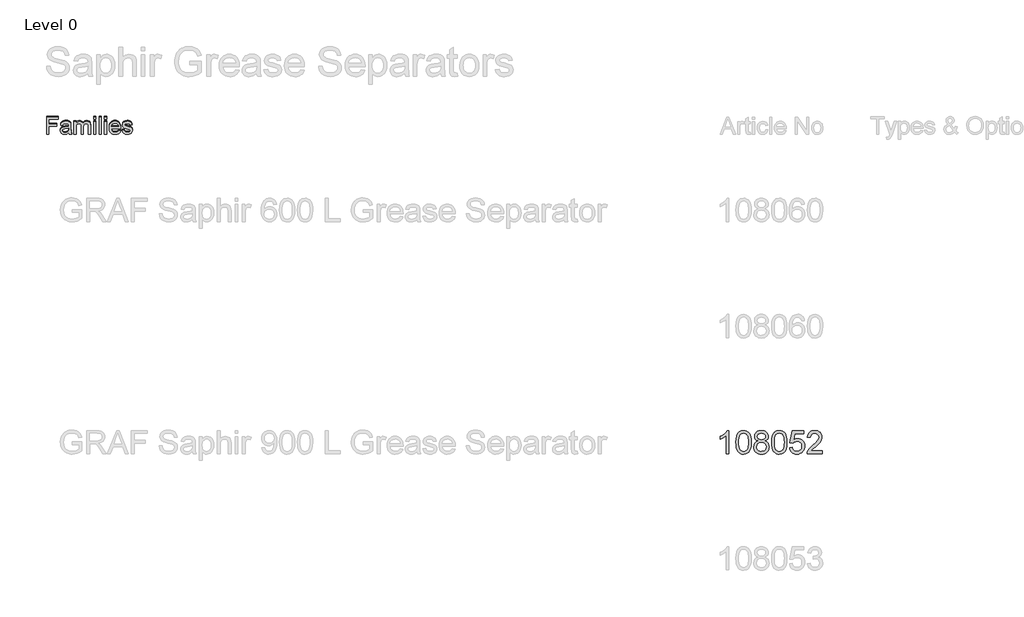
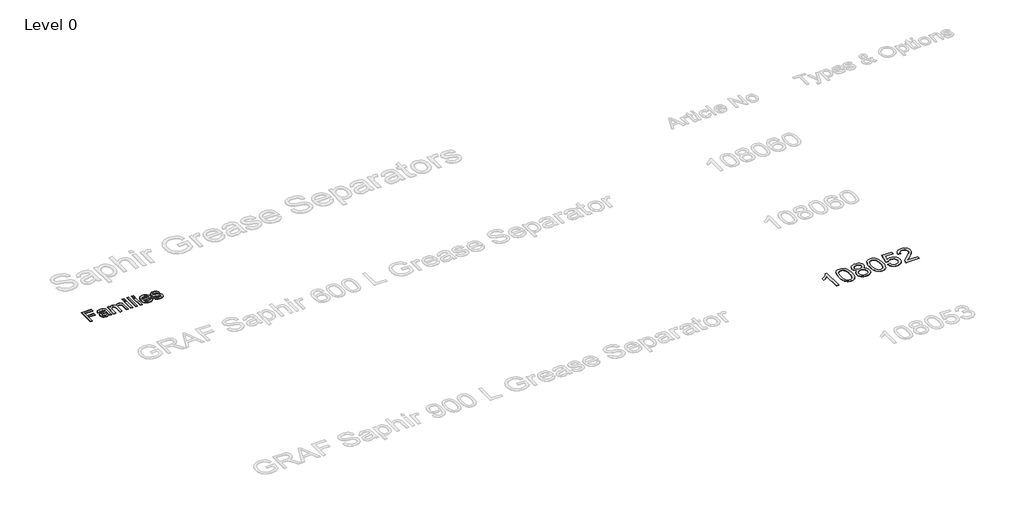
# One storey, part 4 of 15: 3 proxies.
"""IFC4 building model written with IfcOpenShell, lengths in millimetres."""

from ifc_helpers import new_model, si_unit, origin, origin_with_axes, place, context, project, spatial, polyline, outline, extrude, element, save

model = new_model("IFC4")

# Units and contexts
model_context = context("Model", 3, world=origin())
ifc_project = project(units=[si_unit("LENGTHUNIT", "METRE", prefix="MILLI")], contexts=[model_context])

# Site, building, storey
site = spatial("IfcSite", under=ifc_project)
building = spatial("IfcBuilding", under=site)
storey = spatial("IfcBuildingStorey", under=building, Name="Level 0", Elevation=0.0)

# Proxies
placement = place(None, origin())
element("IfcBuildingElementProxy", 1, Name="300mm Arial", ObjectType="300mm Arial", at=placement, inside=storey, context=model_context, shape_type="SweptSolid", body=[
    extrude(outline(polyline([(-15382.9152593, 11653.8274553), (-15382.9152593, 11949.2120707), (-15184.4537209, 11949.2120707), (-15184.4537209, 11912.2889938), (-15345.9921824, 11912.2889938), (-15345.9921824, 11824.5966861), (-15207.530644, 11824.5966861), (-15207.530644, 11787.6736092), (-15345.9921824, 11787.6736092), (-15345.9921824, 11653.8274553), (-15382.9152593, 11653.8274553)])), origin_with_axes(), (0.0, 0.0, 1.0), 10.0),
    extrude(outline(polyline([(-14999.8383363, 11681.519763), (-15017.4795622, 11666.3935611), (-15035.6436247, 11656.4957246), (-15054.7451872, 11651.0329842), (-15075.1989132, 11649.2120707), (-15106.0552834, 11653.5930803), (-15128.8167017, 11666.7361092), (-15142.8521584, 11686.6940419), (-15147.530644, 11711.519763), (-15145.763817, 11726.8262534), (-15140.4633363, 11740.7264938), (-15132.2872545, 11752.6255323), (-15121.8936247, 11761.9284169), (-15096.0402593, 11774.0438015), (-15064.093144, 11779.5966861), (-15026.3407401, 11785.4380323), (-15000.0546824, 11792.2889938), (-14999.8383363, 11800.5101476), (-15002.3804036, 11816.988513), (-15010.0066055, 11827.769763), (-15027.061894, 11835.7745707), (-15050.8239132, 11838.44284), (-15072.8191055, 11836.6669986), (-15088.1796824, 11831.3394746), (-15098.654442, 11821.4867101), (-15105.9921824, 11806.1351476), (-15142.9152593, 11810.7505323), (-15136.5060045, 11830.94284), (-15126.9417017, 11846.8082246), (-15113.3299228, 11858.941638), (-15094.7782401, 11867.9380323), (-15072.0889372, 11873.5089457), (-15046.0642978, 11875.3659169), (-15021.1033603, 11873.7252919), (-15001.3167017, 11868.8034169), (-14986.3978315, 11861.4025755), (-14976.0402593, 11852.3250515), (-14969.171269, 11841.1020948), (-14964.718144, 11827.2649553), (-14962.9152593, 11794.957263), (-14962.9152593, 11749.019763), (-14961.0402593, 11684.8731284), (-14953.6844901, 11653.8274553), (-14990.607567, 11653.8274553), (-14999.8383363, 11681.519763)]), holes=[polyline([(-14999.8383363, 11755.3659169), (-15059.405644, 11744.0438015), (-15091.1724709, 11738.0582246), (-15105.5594901, 11728.3226476), (-15110.607567, 11714.1159169), (-15107.858168, 11703.1363496), (-15099.6099709, 11694.1399553), (-15086.0432642, 11688.1363496), (-15067.3383363, 11686.1351476), (-15047.5066055, 11688.3436813), (-15029.982567, 11694.9692823), (-15015.7758363, 11704.7319025), (-15005.8960286, 11716.3514938), (-15001.515019, 11728.3226476), (-15000.0546824, 11744.9091861), (-14999.8383363, 11755.3659169)])]), origin_with_axes(), (0.0, 0.0, 1.0), 10.0),
    extrude(outline(polyline([(-14912.1460286, 11653.8274553), (-14912.1460286, 11870.7505323), (-14875.2229517, 11870.7505323), (-14875.2229517, 11835.0534169), (-14864.1171824, 11851.4506525), (-14849.8383363, 11864.2962053), (-14832.873192, 11872.598489), (-14813.7085286, 11875.3659169), (-14793.1736728, 11872.5444025), (-14776.7133363, 11864.0798592), (-14764.4176632, 11850.5311813), (-14756.3767978, 11832.457263), (-14742.9182642, 11851.2297991), (-14727.5667017, 11864.6387534), (-14710.3221103, 11872.684126), (-14691.1844901, 11875.3659169), (-14663.4290815, 11870.9037775), (-14642.9032401, 11857.5173592), (-14630.2199468, 11834.8460851), (-14625.9921824, 11802.5293784), (-14625.9921824, 11653.8274553), (-14662.9152593, 11653.8274553), (-14662.9152593, 11786.6639938), (-14666.3407401, 11817.4933207), (-14671.154442, 11825.9939217), (-14678.7445863, 11832.6736092), (-14688.5072065, 11837.0005323), (-14699.8383363, 11838.44284), (-14719.8413411, 11834.7469265), (-14736.1484324, 11823.6591861), (-14746.9927834, 11804.4224073), (-14750.607567, 11776.2793784), (-14750.607567, 11653.8274553), (-14787.530644, 11653.8274553), (-14787.530644, 11790.7745707), (-14789.6670622, 11811.6519746), (-14796.076317, 11826.5438015), (-14807.3533603, 11835.4680803), (-14824.093144, 11838.44284), (-14838.3179036, 11836.4596669), (-14851.4248747, 11830.5101476), (-14862.2421824, 11820.738513), (-14869.5979517, 11807.2889938), (-14873.8167017, 11788.629138), (-14875.2229517, 11763.2264938), (-14875.2229517, 11653.8274553), (-14912.1460286, 11653.8274553)])), origin_with_axes(), (0.0, 0.0, 1.0), 10.0),
    extrude(outline(polyline([(-14570.607567, 11912.2889938), (-14570.607567, 11949.2120707), (-14533.6844901, 11949.2120707), (-14533.6844901, 11912.2889938), (-14570.607567, 11912.2889938)])), origin_with_axes(), (0.0, 0.0, 1.0), 10.0),
    extrude(outline(polyline([(-14570.607567, 11653.8274553), (-14570.607567, 11870.7505323), (-14533.6844901, 11870.7505323), (-14533.6844901, 11653.8274553), (-14570.607567, 11653.8274553)])), origin_with_axes(), (0.0, 0.0, 1.0), 10.0),
    extrude(outline(polyline([(-14478.2998747, 11653.8274553), (-14478.2998747, 11949.2120707), (-14441.3767978, 11949.2120707), (-14441.3767978, 11653.8274553), (-14478.2998747, 11653.8274553)])), origin_with_axes(), (0.0, 0.0, 1.0), 10.0),
    extrude(outline(polyline([(-14385.9921824, 11912.2889938), (-14385.9921824, 11949.2120707), (-14349.0691055, 11949.2120707), (-14349.0691055, 11912.2889938), (-14385.9921824, 11912.2889938)])), origin_with_axes(), (0.0, 0.0, 1.0), 10.0),
    extrude(outline(polyline([(-14385.9921824, 11653.8274553), (-14385.9921824, 11870.7505323), (-14349.0691055, 11870.7505323), (-14349.0691055, 11653.8274553), (-14385.9921824, 11653.8274553)])), origin_with_axes(), (0.0, 0.0, 1.0), 10.0),
    extrude(outline(polyline([(-14141.8094901, 11718.44284), (-14105.607567, 11713.8274553), (-14118.6514372, 11686.5498111), (-14139.4657401, 11666.1591861), (-14167.5817257, 11653.4488496), (-14202.530644, 11649.2120707), (-14225.4408002, 11651.039745), (-14245.8539613, 11656.5227678), (-14263.7701271, 11665.6611392), (-14279.1892978, 11678.4548592), (-14291.5886367, 11694.547858), (-14300.4453074, 11713.5840659), (-14305.7593098, 11735.563483), (-14307.530644, 11760.4861092), (-14305.741281, 11786.2538375), (-14300.373192, 11808.9656765), (-14291.4263771, 11828.621626), (-14278.9008363, 11845.2216861), (-14263.5222305, 11858.4097871), (-14246.0162209, 11867.8298592), (-14226.3828074, 11873.4819025), (-14204.6219901, 11875.3659169), (-14183.5620442, 11873.4864097), (-14164.5168218, 11867.847888), (-14147.486323, 11858.450352), (-14132.4705478, 11845.2938015), (-14120.213186, 11828.7297991), (-14111.4579276, 11809.1099073), (-14106.2047726, 11786.434126), (-14104.4537209, 11760.7024553), (-14104.670067, 11750.7505323), (-14270.607567, 11750.7505323), (-14264.2163411, 11723.1123111), (-14249.3695863, 11702.7938015), (-14227.9423026, 11690.2998111), (-14201.8094901, 11686.1351476), (-14182.1580478, 11688.0642342), (-14165.607567, 11693.8514938), (-14152.1580478, 11703.8575034), (-14141.8094901, 11718.44284)]), holes=[polyline([(-14270.607567, 11787.6736092), (-14141.3767978, 11787.6736092), (-14146.3707882, 11807.1808207), (-14156.1604517, 11821.1351476), (-14177.686894, 11834.1159169), (-14204.7662209, 11838.44284), (-14229.655043, 11834.9903159), (-14250.2349709, 11824.6327438), (-14264.5408603, 11808.4879121), (-14270.607567, 11787.6736092)])]), origin_with_axes(), (0.0, 0.0, 1.0), 10.0),
    extrude(outline(polyline([(-14081.3767978, 11718.44284), (-14044.4537209, 11723.0582246), (-14038.6304036, 11707.2649553), (-14027.3623747, 11695.6543784), (-14010.577519, 11688.5149553), (-13988.2037209, 11686.1351476), (-13966.1003555, 11688.316638), (-13950.5594901, 11694.8611092), (-13941.3647786, 11704.3442823), (-13938.2998747, 11715.3418784), (-13941.3828074, 11724.7529361), (-13950.6316055, 11731.9284169), (-13988.6364132, 11742.457263), (-14044.2373747, 11760.5221669), (-14058.3088892, 11769.5996909), (-14068.5042017, 11781.6159169), (-14074.6971103, 11795.8046188), (-14076.7614132, 11811.3995707), (-14075.1027593, 11825.7054601), (-14070.1267978, 11838.91159), (-14062.2842497, 11850.4951236), (-14052.0258363, 11859.9332246), (-14028.5522786, 11870.8587053), (-13996.7854517, 11875.3659169), (-13972.7529997, 11873.5540178), (-13951.857567, 11868.1183207), (-13935.0546824, 11859.5906765), (-13923.2998747, 11848.5029361), (-13915.5114132, 11834.0347871), (-13910.607567, 11815.3659169), (-13947.530644, 11810.7505323), (-13952.1911007, 11822.3701236), (-13961.4128555, 11831.1231284), (-13975.2860526, 11836.6129121), (-13993.9008363, 11838.44284), (-14015.1027593, 11836.6940419), (-14029.2373747, 11831.4476476), (-14037.1880959, 11823.8755323), (-14039.8383363, 11815.1495707), (-14035.4392978, 11804.4043784), (-14021.6652593, 11796.25534), (-13989.8623747, 11788.394763), (-13935.6676632, 11771.0149553), (-13921.3527593, 11762.7036573), (-13910.499394, 11751.3274553), (-13903.6574468, 11736.8502919), (-13901.3767978, 11719.2361092), (-13904.0540815, 11701.0269746), (-13912.0859324, 11683.8995707), (-13925.1658603, 11669.1970467), (-13942.9873747, 11658.2625515), (-13964.513817, 11651.4746909), (-13988.7085286, 11649.2120707), (-14025.9380959, 11653.5750515), (-14053.107567, 11666.6639938), (-14071.2445863, 11688.3346669), (-14081.3767978, 11718.44284)])), origin_with_axes(), (0.0, 0.0, 1.0), 10.0),
])
element("IfcBuildingElementProxy", 2, Name="300mm Arial", ObjectType="300mm Arial", at=placement, inside=storey, context=model_context, shape_type="SweptSolid", body=[
    extrude(outline(polyline([(-15382.9152593, 11671.1260199), (-15382.9152593, 11966.5106353), (-15184.4537209, 11966.5106353), (-15184.4537209, 11929.5875583), (-15345.9921824, 11929.5875583), (-15345.9921824, 11841.8952506), (-15207.530644, 11841.8952506), (-15207.530644, 11804.9721737), (-15345.9921824, 11804.9721737), (-15345.9921824, 11671.1260199), (-15382.9152593, 11671.1260199)])), origin_with_axes(), (0.0, 0.0, 1.0), 5.0),
    extrude(outline(polyline([(-14999.8383363, 11698.8183276), (-15017.4795622, 11683.6921256), (-15035.6436247, 11673.7942891), (-15054.7451872, 11668.3315487), (-15075.1989132, 11666.5106353), (-15106.0552834, 11670.8916449), (-15128.8167017, 11684.0346737), (-15142.8521584, 11703.9926064), (-15147.530644, 11728.8183276), (-15145.763817, 11744.1248179), (-15140.4633363, 11758.0250583), (-15132.2872545, 11769.9240968), (-15121.8936247, 11779.2269814), (-15096.0402593, 11791.342366), (-15064.093144, 11796.8952506), (-15026.3407401, 11802.7365968), (-15000.0546824, 11809.5875583), (-14999.8383363, 11817.8087122), (-15002.3804036, 11834.2870776), (-15010.0066055, 11845.0683276), (-15027.061894, 11853.0731353), (-15050.8239132, 11855.7414045), (-15072.8191055, 11853.9655631), (-15088.1796824, 11848.6380391), (-15098.654442, 11838.7852747), (-15105.9921824, 11823.4337122), (-15142.9152593, 11828.0490968), (-15136.5060045, 11848.2414045), (-15126.9417017, 11864.1067891), (-15113.3299228, 11876.2402026), (-15094.7782401, 11885.2365968), (-15072.0889372, 11890.8075103), (-15046.0642978, 11892.6644814), (-15021.1033603, 11891.0238564), (-15001.3167017, 11886.1019814), (-14986.3978315, 11878.7011401), (-14976.0402593, 11869.623616), (-14969.171269, 11858.4006593), (-14964.718144, 11844.5635199), (-14962.9152593, 11812.2558276), (-14962.9152593, 11766.3183276), (-14961.0402593, 11702.1716929), (-14953.6844901, 11671.1260199), (-14990.607567, 11671.1260199), (-14999.8383363, 11698.8183276)]), holes=[polyline([(-14999.8383363, 11772.6644814), (-15059.405644, 11761.342366), (-15091.1724709, 11755.3567891), (-15105.5594901, 11745.6212122), (-15110.607567, 11731.4144814), (-15107.858168, 11720.4349141), (-15099.6099709, 11711.4385199), (-15086.0432642, 11705.4349141), (-15067.3383363, 11703.4337122), (-15047.5066055, 11705.6422458), (-15029.982567, 11712.2678468), (-15015.7758363, 11722.030467), (-15005.8960286, 11733.6500583), (-15001.515019, 11745.6212122), (-15000.0546824, 11762.2077506), (-14999.8383363, 11772.6644814)])]), origin_with_axes(), (0.0, 0.0, 1.0), 5.0),
    extrude(outline(polyline([(-14912.1460286, 11671.1260199), (-14912.1460286, 11888.0490968), (-14875.2229517, 11888.0490968), (-14875.2229517, 11852.3519814), (-14864.1171824, 11868.749217), (-14849.8383363, 11881.5947699), (-14832.873192, 11889.8970535), (-14813.7085286, 11892.6644814), (-14793.1736728, 11889.842967), (-14776.7133363, 11881.3784237), (-14764.4176632, 11867.8297458), (-14756.3767978, 11849.7558276), (-14742.9182642, 11868.5283636), (-14727.5667017, 11881.9373179), (-14710.3221103, 11889.9826905), (-14691.1844901, 11892.6644814), (-14663.4290815, 11888.202342), (-14642.9032401, 11874.8159237), (-14630.2199468, 11852.1446497), (-14625.9921824, 11819.8279429), (-14625.9921824, 11671.1260199), (-14662.9152593, 11671.1260199), (-14662.9152593, 11803.9625583), (-14666.3407401, 11834.7918853), (-14671.154442, 11843.2924862), (-14678.7445863, 11849.9721737), (-14688.5072065, 11854.2990968), (-14699.8383363, 11855.7414045), (-14719.8413411, 11852.045491), (-14736.1484324, 11840.9577506), (-14746.9927834, 11821.7209718), (-14750.607567, 11793.5779429), (-14750.607567, 11671.1260199), (-14787.530644, 11671.1260199), (-14787.530644, 11808.0731353), (-14789.6670622, 11828.9505391), (-14796.076317, 11843.842366), (-14807.3533603, 11852.7666449), (-14824.093144, 11855.7414045), (-14838.3179036, 11853.7582314), (-14851.4248747, 11847.8087122), (-14862.2421824, 11838.0370776), (-14869.5979517, 11824.5875583), (-14873.8167017, 11805.9277026), (-14875.2229517, 11780.5250583), (-14875.2229517, 11671.1260199), (-14912.1460286, 11671.1260199)])), origin_with_axes(), (0.0, 0.0, 1.0), 5.0),
    extrude(outline(polyline([(-14570.607567, 11929.5875583), (-14570.607567, 11966.5106353), (-14533.6844901, 11966.5106353), (-14533.6844901, 11929.5875583), (-14570.607567, 11929.5875583)])), origin_with_axes(), (0.0, 0.0, 1.0), 5.0),
    extrude(outline(polyline([(-14570.607567, 11671.1260199), (-14570.607567, 11888.0490968), (-14533.6844901, 11888.0490968), (-14533.6844901, 11671.1260199), (-14570.607567, 11671.1260199)])), origin_with_axes(), (0.0, 0.0, 1.0), 5.0),
    extrude(outline(polyline([(-14478.2998747, 11671.1260199), (-14478.2998747, 11966.5106353), (-14441.3767978, 11966.5106353), (-14441.3767978, 11671.1260199), (-14478.2998747, 11671.1260199)])), origin_with_axes(), (0.0, 0.0, 1.0), 5.0),
    extrude(outline(polyline([(-14385.9921824, 11929.5875583), (-14385.9921824, 11966.5106353), (-14349.0691055, 11966.5106353), (-14349.0691055, 11929.5875583), (-14385.9921824, 11929.5875583)])), origin_with_axes(), (0.0, 0.0, 1.0), 5.0),
    extrude(outline(polyline([(-14385.9921824, 11671.1260199), (-14385.9921824, 11888.0490968), (-14349.0691055, 11888.0490968), (-14349.0691055, 11671.1260199), (-14385.9921824, 11671.1260199)])), origin_with_axes(), (0.0, 0.0, 1.0), 5.0),
    extrude(outline(polyline([(-14141.8094901, 11735.7414045), (-14105.607567, 11731.1260199), (-14118.6514372, 11703.8483756), (-14139.4657401, 11683.4577506), (-14167.5817257, 11670.7474141), (-14202.530644, 11666.5106353), (-14225.4408002, 11668.3383095), (-14245.8539613, 11673.8213324), (-14263.7701271, 11682.9597038), (-14279.1892978, 11695.7534237), (-14291.5886367, 11711.8464225), (-14300.4453074, 11730.8826304), (-14305.7593098, 11752.8620475), (-14307.530644, 11777.7846737), (-14305.741281, 11803.5524021), (-14300.373192, 11826.264241), (-14291.4263771, 11845.9201905), (-14278.9008363, 11862.5202506), (-14263.5222305, 11875.7083516), (-14246.0162209, 11885.1284237), (-14226.3828074, 11890.780467), (-14204.6219901, 11892.6644814), (-14183.5620442, 11890.7849742), (-14164.5168218, 11885.1464526), (-14147.486323, 11875.7489165), (-14132.4705478, 11862.592366), (-14120.213186, 11846.0283636), (-14111.4579276, 11826.4084718), (-14106.2047726, 11803.7326905), (-14104.4537209, 11778.0010199), (-14104.670067, 11768.0490968), (-14270.607567, 11768.0490968), (-14264.2163411, 11740.4108756), (-14249.3695863, 11720.092366), (-14227.9423026, 11707.5983756), (-14201.8094901, 11703.4337122), (-14182.1580478, 11705.3627987), (-14165.607567, 11711.1500583), (-14152.1580478, 11721.1560679), (-14141.8094901, 11735.7414045)]), holes=[polyline([(-14270.607567, 11804.9721737), (-14141.3767978, 11804.9721737), (-14146.3707882, 11824.4793853), (-14156.1604517, 11838.4337122), (-14177.686894, 11851.4144814), (-14204.7662209, 11855.7414045), (-14229.655043, 11852.2888804), (-14250.2349709, 11841.9313083), (-14264.5408603, 11825.7864766), (-14270.607567, 11804.9721737)])]), origin_with_axes(), (0.0, 0.0, 1.0), 5.0),
    extrude(outline(polyline([(-14081.3767978, 11735.7414045), (-14044.4537209, 11740.3567891), (-14038.6304036, 11724.5635199), (-14027.3623747, 11712.9529429), (-14010.577519, 11705.8135199), (-13988.2037209, 11703.4337122), (-13966.1003555, 11705.6152026), (-13950.5594901, 11712.1596737), (-13941.3647786, 11721.6428468), (-13938.2998747, 11732.6404429), (-13941.3828074, 11742.0515006), (-13950.6316055, 11749.2269814), (-13988.6364132, 11759.7558276), (-14044.2373747, 11777.8207314), (-14058.3088892, 11786.8982554), (-14068.5042017, 11798.9144814), (-14074.6971103, 11813.1031833), (-14076.7614132, 11828.6981353), (-14075.1027593, 11843.0040247), (-14070.1267978, 11856.2101545), (-14062.2842497, 11867.7936881), (-14052.0258363, 11877.2317891), (-14028.5522786, 11888.1572699), (-13996.7854517, 11892.6644814), (-13972.7529997, 11890.8525824), (-13951.857567, 11885.4168853), (-13935.0546824, 11876.889241), (-13923.2998747, 11865.8015006), (-13915.5114132, 11851.3333516), (-13910.607567, 11832.6644814), (-13947.530644, 11828.0490968), (-13952.1911007, 11839.6686881), (-13961.4128555, 11848.4216929), (-13975.2860526, 11853.9114766), (-13993.9008363, 11855.7414045), (-14015.1027593, 11853.9926064), (-14029.2373747, 11848.7462122), (-14037.1880959, 11841.1740968), (-14039.8383363, 11832.4481353), (-14035.4392978, 11821.7029429), (-14021.6652593, 11813.5539045), (-13989.8623747, 11805.6933276), (-13935.6676632, 11788.3135199), (-13921.3527593, 11780.0022218), (-13910.499394, 11768.6260199), (-13903.6574468, 11754.1488564), (-13901.3767978, 11736.5346737), (-13904.0540815, 11718.3255391), (-13912.0859324, 11701.1981353), (-13925.1658603, 11686.4956112), (-13942.9873747, 11675.561116), (-13964.513817, 11668.7732554), (-13988.7085286, 11666.5106353), (-14025.9380959, 11670.873616), (-14053.107567, 11683.9625583), (-14071.2445863, 11705.6332314), (-14081.3767978, 11735.7414045)])), origin_with_axes(), (0.0, 0.0, 1.0), 5.0),
])
element("IfcBuildingElementProxy", 3, Name="400mm Arial", ObjectType="400mm Arial", at=placement, inside=storey, context=model_context, shape_type="SweptSolid", body=[
    extrude(outline(polyline([(-3629.592891, 6149.0232018), (-3679.821046, 6149.0232018), (-3679.821046, 6462.1643561), (-3700.7903198, 6445.2049961), (-3727.4004508, 6428.2701616), (-3780.2773562, 6402.9108294), (-3780.2773562, 6450.3921323), (-3740.8281436, 6471.8519153), (-3706.6519062, 6497.3829258), (-3679.7106814, 6524.532617), (-3661.9665065, 6550.8484424), (-3629.592891, 6550.8484424), (-3629.592891, 6149.0232018)])), origin_with_axes(), (0.0, 0.0, 1.0), 5.0),
    extrude(outline(polyline([(-3510.3010227, 6346.6984606), (-3506.60994, 6411.0164961), (-3495.5366919, 6462.3115089), (-3477.1916431, 6501.3683141), (-3465.3335801, 6516.6016944), (-3451.6851581, 6528.9717264), (-3436.2003918, 6538.5427897), (-3418.8332959, 6545.3792634), (-3378.4521156, 6550.8484424), (-3347.5009771, 6547.6110809), (-3319.7872001, 6537.8989962), (-3296.6106344, 6522.0923331), (-3279.2711297, 6500.5712364), (-3266.1745307, 6473.519647), (-3255.726682, 6441.121506), (-3248.8840769, 6399.9800362), (-3246.6032085, 6346.6984606), (-3250.257503, 6282.7483071), (-3261.2203865, 6231.5759215), (-3279.4550707, 6192.4823282), (-3291.2855425, 6177.2029627), (-3304.9247675, 6164.7685512), (-3320.4279279, 6155.1331086), (-3337.8502061, 6148.2506496), (-3378.4521156, 6142.7446824), (-3406.1168416, 6145.1359154), (-3430.642308, 6152.3096143), (-3452.0285146, 6164.2657792), (-3470.2754616, 6181.0044099), (-3487.7866446, 6211.262704), (-3500.2946324, 6248.9644772), (-3507.7994251, 6294.1097294), (-3510.3010227, 6346.6984606)]), holes=[polyline([(-3460.0728676, 6346.7965624), (-3458.6013396, 6303.1320353), (-3454.1867557, 6267.7877726), (-3446.8291158, 6240.7637744), (-3436.5284199, 6222.0600406), (-3424.069483, 6209.3343892), (-3410.23712, 6200.2446383), (-3395.0313308, 6194.7907877), (-3378.4521156, 6192.9728375), (-3361.8729003, 6194.7969191), (-3346.6671112, 6200.2691637), (-3332.8347482, 6209.3895715), (-3320.3758113, 6222.1581425), (-3310.0751154, 6240.8925331), (-3302.7174755, 6267.9103999), (-3298.3028916, 6303.2117431), (-3296.8313636, 6346.7965624), (-3298.2538406, 6389.305327), (-3302.5212718, 6424.0272559), (-3309.633657, 6450.9623494), (-3319.5909964, 6470.1106072), (-3331.8414668, 6483.4585923), (-3345.8332454, 6492.9928673), (-3361.566332, 6498.7134323), (-3379.0407268, 6500.6202873), (-3395.5341029, 6498.9402929), (-3410.4823746, 6493.9003096), (-3423.885542, 6485.5003373), (-3435.743605, 6473.7403762), (-3446.3876574, 6452.8937298), (-3453.9905519, 6424.7875454), (-3458.5522887, 6389.4218229), (-3460.0728676, 6346.7965624)])]), origin_with_axes(), (0.0, 0.0, 1.0), 5.0),
    extrude(outline(polyline([(-3129.4695813, 6370.3410101), (-3156.3617551, 6383.5847619), (-3175.2341015, 6401.5374033), (-3186.3809259, 6423.8310522), (-3190.0965341, 6450.0978267), (-3188.0731831, 6470.5827224), (-3182.0031302, 6489.3630983), (-3171.8863753, 6506.4389542), (-3157.7229185, 6521.8102903), (-3140.1933414, 6534.5144818), (-3119.9782258, 6543.5889044), (-3097.0775716, 6549.0335579), (-3071.4913788, 6550.8484424), (-3045.7825587, 6548.9906383), (-3022.7102263, 6543.4172261), (-3002.2743814, 6534.1282057), (-2984.4750242, 6521.1235772), (-2970.05405, 6505.4518042), (-2959.7533542, 6488.1613504), (-2953.5729366, 6469.2522159), (-2951.5127975, 6448.7244006), (-2955.1793547, 6423.3037547), (-2966.1790263, 6401.3902505), (-2984.6344398, 6383.5479737), (-3010.6682223, 6370.3410101), (-2979.753872, 6354.4117197), (-2957.2517566, 6330.9531112), (-2943.5297582, 6301.0933559), (-2938.9557587, 6265.9606254), (-2941.2243643, 6240.9078615), (-2948.0301812, 6217.9397623), (-2959.3732094, 6197.0563277), (-2975.2534489, 6178.2575577), (-2994.8370338, 6162.7206748), (-3017.2900982, 6151.6229013), (-3042.6126422, 6144.9642371), (-3070.8046658, 6142.7446824), (-3098.9966893, 6144.9734342), (-3124.3192333, 6151.6596895), (-3146.7722978, 6162.8034482), (-3166.3558826, 6178.4047105), (-3182.2361221, 6197.3353048), (-3193.5791503, 6218.4670598), (-3200.3849672, 6241.7999753), (-3202.6535728, 6267.3340515), (-3197.8956324, 6303.8279454), (-3183.621811, 6333.8471162), (-3160.5678726, 6356.3614943), (-3129.4695813, 6370.3410101)]), holes=[polyline([(-3139.868379, 6448.6262987), (-3135.4170068, 6426.7005318), (-3122.0628904, 6409.1893488), (-3100.1984372, 6397.7114306), (-3070.2160546, 6393.8854578), (-3040.9326478, 6397.6869051), (-3019.3992883, 6409.0912469), (-3006.1555365, 6426.0138187), (-3001.7409525, 6446.3699558), (-3006.3026893, 6467.498645), (-3019.9878995, 6484.9730398), (-3041.8155645, 6496.7084755), (-3070.8046658, 6500.6202873), (-3099.977708, 6496.7943146), (-3121.7685848, 6485.3163963), (-3135.3434305, 6468.4919264), (-3139.868379, 6448.6262987)]), polyline([(-3152.4254178, 6269.099885), (-3150.3284904, 6249.8841822), (-3144.0377083, 6231.2816159), (-3132.4249, 6215.05802), (-3114.361894, 6202.9792278), (-3092.7304327, 6195.4744351), (-3070.4122583, 6192.9728375), (-3036.2237582, 6198.23355), (-3022.3300815, 6204.8094407), (-3010.5701204, 6214.0156876), (-2994.5304654, 6237.9157546), (-2989.1839138, 6267.5302552), (-2994.7021437, 6297.6475279), (-3011.2568335, 6322.0748924), (-3023.3356257, 6331.5171969), (-3037.4990825, 6338.2617001), (-3072.07999, 6343.6573027), (-3105.7902435, 6338.3352765), (-3119.5275703, 6331.6827438), (-3131.1863639, 6322.3691979), (-3147.1156543, 6298.4078173), (-3152.4254178, 6269.099885)])]), origin_with_axes(), (0.0, 0.0, 1.0), 5.0),
    extrude(outline(polyline([(-2895.006123, 6346.6984606), (-2891.3150403, 6411.0164961), (-2880.2417923, 6462.3115089), (-2861.8967434, 6501.3683141), (-2850.0386805, 6516.6016944), (-2836.3902584, 6528.9717264), (-2820.9054921, 6538.5427897), (-2803.5383963, 6545.3792634), (-2763.1572159, 6550.8484424), (-2732.2060774, 6547.6110809), (-2704.4923004, 6537.8989962), (-2681.3157347, 6522.0923331), (-2663.97623, 6500.5712364), (-2650.879631, 6473.519647), (-2640.4317823, 6441.121506), (-2633.5891772, 6399.9800362), (-2631.3083089, 6346.6984606), (-2634.9626033, 6282.7483071), (-2645.9254868, 6231.5759215), (-2664.160171, 6192.4823282), (-2675.9906429, 6177.2029627), (-2689.6298678, 6164.7685512), (-2705.1330282, 6155.1331086), (-2722.5553064, 6148.2506496), (-2763.1572159, 6142.7446824), (-2790.821942, 6145.1359154), (-2815.3474083, 6152.3096143), (-2836.733615, 6164.2657792), (-2854.9805619, 6181.0044099), (-2872.4917449, 6211.262704), (-2884.9997327, 6248.9644772), (-2892.5045254, 6294.1097294), (-2895.006123, 6346.6984606)]), holes=[polyline([(-2844.7779679, 6346.7965624), (-2843.3064399, 6303.1320353), (-2838.891856, 6267.7877726), (-2831.5342161, 6240.7637744), (-2821.2335202, 6222.0600406), (-2808.7745833, 6209.3343892), (-2794.9422203, 6200.2446383), (-2779.7364312, 6194.7907877), (-2763.1572159, 6192.9728375), (-2746.5780007, 6194.7969191), (-2731.3722115, 6200.2691637), (-2717.5398485, 6209.3895715), (-2705.0809116, 6222.1581425), (-2694.7802158, 6240.8925331), (-2687.4225759, 6267.9103999), (-2683.0079919, 6303.2117431), (-2681.5364639, 6346.7965624), (-2682.958941, 6389.305327), (-2687.2263721, 6424.0272559), (-2694.3387574, 6450.9623494), (-2704.2960967, 6470.1106072), (-2716.5465671, 6483.4585923), (-2730.5383457, 6492.9928673), (-2746.2714324, 6498.7134323), (-2763.7458271, 6500.6202873), (-2780.2392032, 6498.9402929), (-2795.187475, 6493.9003096), (-2808.5906423, 6485.5003373), (-2820.4487053, 6473.7403762), (-2831.0927577, 6452.8937298), (-2838.6956523, 6424.7875454), (-2843.257389, 6389.4218229), (-2844.7779679, 6346.7965624)])]), origin_with_axes(), (0.0, 0.0, 1.0), 5.0),
    extrude(outline(polyline([(-2587.3586732, 6255.7580314), (-2537.1305181, 6262.0365507), (-2527.9089427, 6231.8824899), (-2511.8202368, 6210.2878168), (-2488.9379767, 6197.3015823), (-2459.3357388, 6192.9728375), (-2440.2058751, 6194.478088), (-2423.3323543, 6198.9938395), (-2408.7151763, 6206.520092), (-2396.3543413, 6217.0568455), (-2386.5257606, 6230.0829338), (-2379.5053459, 6245.0771908), (-2373.8890141, 6280.9702108), (-2379.1497266, 6314.7663034), (-2385.7256173, 6328.6845055), (-2394.9318642, 6340.6161449), (-2406.7991243, 6350.1872082), (-2421.3580542, 6357.0236819), (-2458.5509239, 6362.4928609), (-2482.9169747, 6360.3100944), (-2502.6477124, 6353.7617949), (-2518.4053245, 6343.7308791), (-2530.8519987, 6331.100264), (-2581.0801538, 6337.3787834), (-2537.1305181, 6544.569923), (-2342.4964172, 6544.569923), (-2342.4964172, 6494.341768), (-2496.5163458, 6494.341768), (-2518.0006543, 6383.6828638), (-2500.2748735, 6396.3870554), (-2482.1198971, 6405.4614779), (-2463.535725, 6410.9061315), (-2444.5223572, 6412.721016), (-2420.0612702, 6410.4708044), (-2397.5928773, 6403.7201698), (-2377.1171786, 6392.4691121), (-2358.634174, 6376.7176314), (-2343.3333487, 6357.4283521), (-2332.4041878, 6335.5638988), (-2325.8466912, 6311.1242716), (-2323.660859, 6284.1094705), (-2325.6290277, 6258.0879507), (-2331.5335337, 6233.8813154), (-2341.3743771, 6211.4895646), (-2355.1515578, 6190.9126983), (-2376.0227297, 6169.8391914), (-2400.3765178, 6154.7866864), (-2428.2129221, 6145.7551834), (-2459.5319426, 6142.7446824), (-2485.4522948, 6144.6791286), (-2508.8649181, 6150.4824671), (-2529.7698125, 6160.1546979), (-2548.1669779, 6173.695821), (-2563.4739346, 6190.4313861), (-2575.1082027, 6209.6869428), (-2583.0697822, 6231.4624913), (-2587.3586732, 6255.7580314)])), origin_with_axes(), (0.0, 0.0, 1.0), 5.0),
    extrude(outline(polyline([(-2022.2919286, 6199.2513569), (-2022.2919286, 6149.0232018), (-2285.9897427, 6149.0232018), (-2284.8860967, 6166.7060631), (-2280.5941401, 6183.6531603), (-2268.2087796, 6210.7170124), (-2250.08446, 6236.9715241), (-2223.8667365, 6264.4523092), (-2187.2011643, 6295.1949812), (-2132.9998837, 6343.3384717), (-2100.4791153, 6378.8758724), (-2084.2187311, 6407.7178208), (-2078.798603, 6435.7749543), (-2083.9121628, 6460.9258201), (-2099.252842, 6481.8337801), (-2122.8340779, 6495.9236605), (-2152.6693077, 6500.6202873), (-2184.0005909, 6496.0340251), (-2208.3421163, 6482.2752385), (-2224.0506775, 6460.423048), (-2229.4830683, 6431.5565741), (-2279.7112233, 6437.8350935), (-2275.3916756, 6463.7646428), (-2267.5343293, 6486.4200423), (-2256.1391845, 6505.8012921), (-2241.2062412, 6521.9083921), (-2223.0788559, 6534.5696641), (-2202.1003851, 6543.6134298), (-2178.2708288, 6549.0396893), (-2151.5901871, 6550.8484424), (-2124.6704222, 6548.8373542), (-2100.7121072, 6542.8040895), (-2079.7152423, 6532.7486483), (-2061.6798275, 6518.6710306), (-2047.194474, 6501.6135687), (-2036.8477929, 6482.618595), (-2030.6397842, 6461.6861095), (-2028.570448, 6438.8161122), (-2030.8022654, 6414.7934179), (-2037.4977177, 6391.1876565), (-2049.3803062, 6367.177225), (-2067.173532, 6341.9405201), (-2095.5372338, 6311.8109847), (-2139.1312502, 6273.1220615), (-2196.913249, 6224.8068928), (-2219.5747799, 6199.2513569), (-2022.2919286, 6199.2513569)])), origin_with_axes(), (0.0, 0.0, 1.0), 5.0),
])

save(model, "model.ifc")
